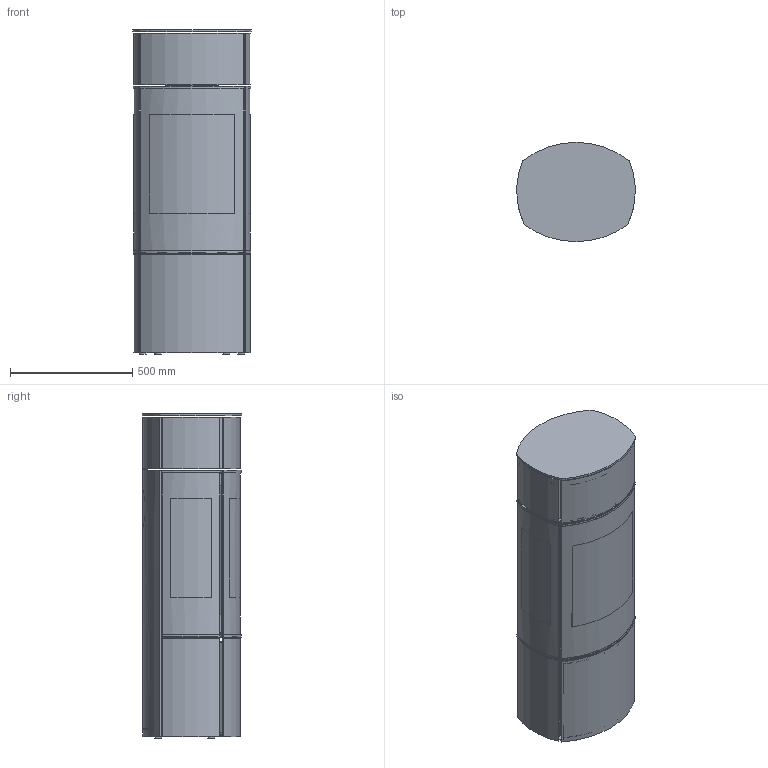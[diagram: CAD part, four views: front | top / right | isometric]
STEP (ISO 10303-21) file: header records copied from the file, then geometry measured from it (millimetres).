
FILE_DESCRIPTION(/* description */ (''),/* implementation_level */ '2;1');
FILE_NAME(/* name */ '14 Caro 130 G Gas_14-0513.stp',/* time_stamp */ '2023-11-16T14:06:44+01:00',/* author */ ('ksj'),/* organization */ (''),/* preprocessor_version */ 'ST-DEVELOPER v19.2',/* originating_system */ 'Autodesk Inventor 2023',/* authorisation */ '');
FILE_SCHEMA (('AUTOMOTIVE_DESIGN { 1 0 10303 214 3 1 1 }'));
Products named in the file (1): 14 Caro 130 G Gas_14-0513
Bounding box: 484.89 x 407 x 1329 mm (x, y, z)
Volume: 16282530.8 mm3; surface area: 8958484.7 mm2
Topology: 71 solids, 71 shells, 4397 faces, 11820 edges, 7545 vertices
Faces by surface type: plane 2776, cylinder 1578, bspline 33, torus 8, sphere 2
Full cylindrical faces by diameter (mm): 10 x4, 16.1 x2, 25 x4, 110 x2, 200 x1
Entity records: 144338 total; most frequent: CARTESIAN_POINT 26772, DIRECTION 23708, ORIENTED_EDGE 23640, EDGE_CURVE 11820, LINE 8170, VECTOR 8170, AXIS2_PLACEMENT_3D 7769, VERTEX_POINT 7545
